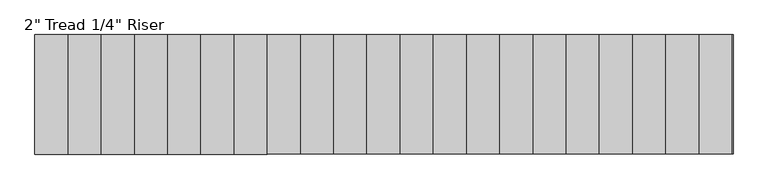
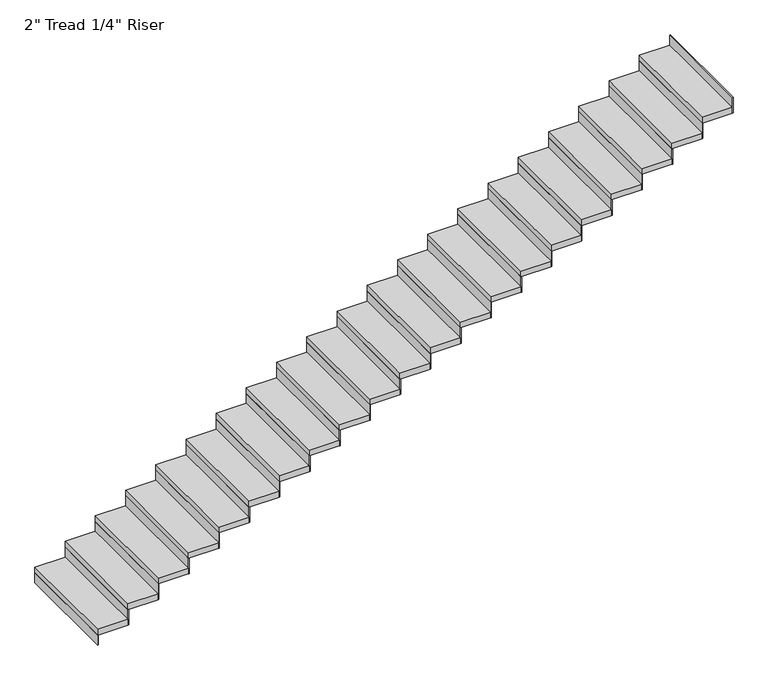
"""IFC4 building model written with IfcOpenShell, lengths in millimetres: stair flight geometry."""

import ifcopenshell
import ifcopenshell.guid

model = None  # the IFC model being written
_history = None  # IfcOwnerHistory: only IFC2X3 demands one
_inside = {}  # id of a spatial element -> (the spatial element, [elements in it])
_under = {}  # id of a project, library or spatial element -> (it, [spatial elements below it])
_declared = {}  # id of a project -> (the project, [libraries it declares])
_typed = {}  # id of a type object -> (the type object, [elements of that type])
_made_of = {}  # id of a material, layer set ... -> (it, [elements and type objects made of it])


def new_model(schema):
    """Start an empty IFC model of exactly this schema.

    Asked for "IFC4X3", IfcOpenShell would pick the latest addendum, in which some entities
    have other attributes; the version numbers below select the first issue.
    IFC2X3 requires an IfcOwnerHistory on every rooted entity: one is made here for all.
    """
    global model, _history
    if schema == "IFC4X3":
        model = ifcopenshell.file(schema_version=(4, 3, 0, 0))
    else:
        model = ifcopenshell.file(schema=schema)
    _inside.clear()
    _under.clear()
    _declared.clear()
    _typed.clear()
    _made_of.clear()
    _history = None
    if model.schema == "IFC2X3":
        org = make("IfcOrganization", Name="unknown")
        user = make(
            "IfcPersonAndOrganization",
            ThePerson=make("IfcPerson", FamilyName="unknown"),
            TheOrganization=org,
        )
        app = make(
            "IfcApplication",
            ApplicationDeveloper=org,
            Version="unknown",
            ApplicationFullName="unknown",
            ApplicationIdentifier="unknown",
        )
        _history = make(
            "IfcOwnerHistory",
            OwningUser=user,
            OwningApplication=app,
            ChangeAction="ADDED",
            CreationDate=0,
        )
    return model


def make(cls, **values):
    """One entity of the class cls with the attributes given. An attribute that is None is left unset."""
    return model.create_entity(
        cls, **{name: value for name, value in values.items() if value is not None}
    )


def rooted(cls, **values):
    """An entity with a GlobalId (a new one), such as an element, a storey or a relation."""
    return make(cls, GlobalId=ifcopenshell.guid.new(), OwnerHistory=_history, **values)


def si_unit(unit_type, name, prefix=None):
    """IfcSIUnit, for example si_unit("LENGTHUNIT", "METRE", prefix="MILLI")."""
    return make("IfcSIUnit", UnitType=unit_type, Prefix=prefix, Name=name)


def assignment(units):
    """IfcUnitAssignment: the units of a project."""
    return None if units is None else make("IfcUnitAssignment", Units=units)


def point(xyz):
    """IfcCartesianPoint."""
    return None if xyz is None else make("IfcCartesianPoint", Coordinates=xyz)


def direction(xyz):
    """IfcDirection."""
    return None if xyz is None else make("IfcDirection", DirectionRatios=xyz)


def frame(location, z_axis=None, x_axis=None):
    """IfcAxis2Placement3D, a coordinate frame: its origin and axes. An axis left out is left unset."""
    return make(
        "IfcAxis2Placement3D",
        Location=point(location),
        Axis=direction(z_axis),
        RefDirection=direction(x_axis),
    )


def origin():
    """The frame at (0, 0, 0) with its axes left unset."""
    return frame((0.0, 0.0, 0.0))


def origin_with_axes():
    """The frame at (0, 0, 0) with the z axis (0, 0, 1) and the x axis (1, 0, 0) written out."""
    return frame((0.0, 0.0, 0.0), z_axis=(0.0, 0.0, 1.0), x_axis=(1.0, 0.0, 0.0))


def place(relative_to, where):
    """IfcLocalPlacement: puts the frame where relative to a parent placement (None: the world)."""
    return make(
        "IfcLocalPlacement", PlacementRelTo=relative_to, RelativePlacement=where
    )


def context(
    kind, dimensions, precision=None, world=None, true_north=None, identifier=None
):
    """IfcGeometricRepresentationContext, for example the 3D "Model" context."""
    return make(
        "IfcGeometricRepresentationContext",
        ContextIdentifier=identifier,
        ContextType=kind,
        CoordinateSpaceDimension=dimensions,
        Precision=precision,
        WorldCoordinateSystem=world,
        TrueNorth=true_north,
    )


def project(units=None, contexts=None):
    """IfcProject with its units and contexts."""
    return rooted(
        "IfcProject",
        Name="project",
        RepresentationContexts=contexts,
        UnitsInContext=assignment(units),
    )


def spatial(cls, under=None, at=None, **own):
    """A site, building, storey or space (cls), placed at a placement, below another one or the project."""
    s = rooted(cls, ObjectPlacement=at, **own)
    if under is not None:
        _under.setdefault(under.id(), (under, []))[1].append(s)
    return s


def polyline(points):
    """IfcPolyline through the points."""
    return make("IfcPolyline", Points=[point(p) for p in points])


def outline(outer, holes=None, kind="AREA"):
    """IfcArbitraryClosedProfileDef: a profile drawn as a closed curve; with holes, ...WithVoids."""
    if holes is None:
        return make("IfcArbitraryClosedProfileDef", ProfileType=kind, OuterCurve=outer)
    return make(
        "IfcArbitraryProfileDefWithVoids",
        ProfileType=kind,
        OuterCurve=outer,
        InnerCurves=holes,
    )


def extrude(swept, where, along, depth):
    """IfcExtrudedAreaSolid: the profile swept, set in the frame where, extruded along a direction by depth."""
    return make(
        "IfcExtrudedAreaSolid",
        SweptArea=swept,
        Position=where,
        ExtrudedDirection=direction(along),
        Depth=depth,
    )


def shape(context_of_items, identifier, shape_type, items):
    """IfcShapeRepresentation: the items that make up one representation, for example the "Body"."""
    return make(
        "IfcShapeRepresentation",
        ContextOfItems=context_of_items,
        RepresentationIdentifier=identifier,
        RepresentationType=shape_type,
        Items=items,
    )


def source(mapping_origin, context_of_items, identifier, shape_type, items):
    """IfcRepresentationMap: a shape defined once, which mapped items show again and again."""
    return make(
        "IfcRepresentationMap",
        MappingOrigin=mapping_origin,
        MappedRepresentation=shape(context_of_items, identifier, shape_type, items),
    )


def transform(
    local_origin,
    x_axis=None,
    y_axis=None,
    z_axis=None,
    scale=None,
    scale2=None,
    scale3=None,
    uniform=True,
):
    """IfcCartesianTransformationOperator3D, or its non-uniform kind. x_axis, y_axis, z_axis: its Axis1, 2, 3."""
    if uniform:
        return make(
            "IfcCartesianTransformationOperator3D",
            Axis1=direction(x_axis),
            Axis2=direction(y_axis),
            LocalOrigin=point(local_origin),
            Scale=scale,
            Axis3=direction(z_axis),
        )
    return make(
        "IfcCartesianTransformationOperator3DnonUniform",
        Axis1=direction(x_axis),
        Axis2=direction(y_axis),
        LocalOrigin=point(local_origin),
        Scale=scale,
        Axis3=direction(z_axis),
        Scale2=scale2,
        Scale3=scale3,
    )


def mapped(mapping_source, mapping_target):
    """IfcMappedItem: shows the shape of a source again, moved by a transform."""
    return make(
        "IfcMappedItem", MappingSource=mapping_source, MappingTarget=mapping_target
    )


def made_of(thing, what):
    """Note that an element or type object is made of a material, layer set ...; save() writes the relation."""
    if what is not None:
        _made_of.setdefault(what.id(), (what, []))[1].append(thing)
    return thing


def element(
    cls,
    number,
    at=None,
    inside=None,
    cuts=None,
    type_object=None,
    material=None,
    context=None,
    identifier="Body",
    shape_type=None,
    held_by="IfcProductDefinitionShape",
    body=None,
    shapes=None,
    **own,
):
    """One element of the class cls, such as IfcWall. Its Tag is "e" and its number.

    at: its placement. inside: the storey or other place that contains it. cuts: it is an
    opening in that element (IfcRelVoidsElement). A single representation is given by context,
    identifier, shape_type and body (its items); several are given by shapes. held_by: the class
    of the entity that holds the representations. save() writes the other relations.
    """
    e = rooted(cls, Tag="e%d" % number, ObjectPlacement=at, **own)
    if body is not None:
        shapes = [shape(context, identifier, shape_type, body)]
    if shapes is not None:
        e.Representation = make(held_by, Representations=shapes)
    if inside is not None:
        _inside.setdefault(inside.id(), (inside, []))[1].append(e)
    if cuts is not None:
        rooted(
            "IfcRelVoidsElement", RelatingBuildingElement=cuts, RelatedOpeningElement=e
        )
    if type_object is not None:
        _typed.setdefault(type_object.id(), (type_object, []))[1].append(e)
    return made_of(e, material)


def aggregate(whole, parts):
    """IfcRelAggregates: a whole, such as a stair, and the parts it consists of."""
    return rooted("IfcRelAggregates", RelatingObject=whole, RelatedObjects=parts)


def save(model, path):
    """Write the relations noted so far, then the file.

    IfcRelAggregates (storeys below a building ...), IfcRelContainedInSpatialStructure (elements
    in a storey), IfcRelDefinesByType, IfcRelAssociatesMaterial and IfcRelDeclares: one each for
    every whole, place, type object, material and project.
    """
    for whole, parts in _under.values():
        aggregate(whole, parts)
    for where, things in _inside.values():
        rooted(
            "IfcRelContainedInSpatialStructure",
            RelatedElements=things,
            RelatingStructure=where,
        )
    for kind, things in _typed.values():
        rooted("IfcRelDefinesByType", RelatedObjects=things, RelatingType=kind)
    for what, things in _made_of.values():
        rooted("IfcRelAssociatesMaterial", RelatedObjects=things, RelatingMaterial=what)
    for by, libraries in _declared.values():
        rooted("IfcRelDeclares", RelatingContext=by, RelatedDefinitions=libraries)
    model.write(path)


def stair_flight_4c7bdb1a(model_context):
    return source(origin(), model_context, "Body", "SweptSolid", [
        extrude(outline(polyline([(37777.7791841, 34137.0052558), (37771.4291841, 34137.0052558), (37771.4291841, 35051.4052558), (37777.7791841, 35051.4052558), (37777.7791841, 34137.0052558)])), origin_with_axes(), (0.0, 0.0, 1.0), 87.7454545),
        extrude(outline(polyline([(38025.4291841, 35051.4052558), (38025.4291841, 34137.0052558), (37771.4291841, 34137.0052558), (37771.4291841, 35051.4052558), (38025.4291841, 35051.4052558)])), frame((0.0, 0.0, 87.7454545), z_axis=(0.0, 0.0, 1.0), x_axis=(1.0, 0.0, 0.0)), (0.0, 0.0, 1.0), 50.8),
        extrude(outline(polyline([(38031.7791841, 34137.0052558), (38025.4291841, 34137.0052558), (38025.4291841, 35051.4052558), (38031.7791841, 35051.4052558), (38031.7791841, 34137.0052558)])), frame((0.0, 0.0, 87.7454545), z_axis=(0.0, 0.0, 1.0), x_axis=(1.0, 0.0, 0.0)), (0.0, 0.0, 1.0), 138.5454545),
        extrude(outline(polyline([(38279.4291841, 35051.4052558), (38279.4291841, 34137.0052558), (38025.4291841, 34137.0052558), (38025.4291841, 35051.4052558), (38279.4291841, 35051.4052558)])), frame((0.0, 0.0, 226.2909091), z_axis=(0.0, 0.0, 1.0), x_axis=(1.0, 0.0, 0.0)), (0.0, 0.0, 1.0), 50.8),
        extrude(outline(polyline([(38285.7791841, 34137.0052558), (38279.4291841, 34137.0052558), (38279.4291841, 35051.4052558), (38285.7791841, 35051.4052558), (38285.7791841, 34137.0052558)])), frame((0.0, 0.0, 226.2909091), z_axis=(0.0, 0.0, 1.0), x_axis=(1.0, 0.0, 0.0)), (0.0, 0.0, 1.0), 138.5454545),
        extrude(outline(polyline([(38533.4291841, 35051.4052558), (38533.4291841, 34137.0052558), (38279.4291841, 34137.0052558), (38279.4291841, 35051.4052558), (38533.4291841, 35051.4052558)])), frame((0.0, 0.0, 364.8363636), z_axis=(0.0, 0.0, 1.0), x_axis=(1.0, 0.0, 0.0)), (0.0, 0.0, 1.0), 50.8),
        extrude(outline(polyline([(38539.7791841, 34137.0052558), (38533.4291841, 34137.0052558), (38533.4291841, 35051.4052558), (38539.7791841, 35051.4052558), (38539.7791841, 34137.0052558)])), frame((0.0, 0.0, 364.8363636), z_axis=(0.0, 0.0, 1.0), x_axis=(1.0, 0.0, 0.0)), (0.0, 0.0, 1.0), 138.5454545),
        extrude(outline(polyline([(38787.4291841, 35051.4052558), (38787.4291841, 34137.0052558), (38533.4291841, 34137.0052558), (38533.4291841, 35051.4052558), (38787.4291841, 35051.4052558)])), frame((0.0, 0.0, 503.3818182), z_axis=(0.0, 0.0, 1.0), x_axis=(1.0, 0.0, 0.0)), (0.0, 0.0, 1.0), 50.8),
        extrude(outline(polyline([(38793.7791841, 34137.0052558), (38787.4291841, 34137.0052558), (38787.4291841, 35051.4052558), (38793.7791841, 35051.4052558), (38793.7791841, 34137.0052558)])), frame((0.0, 0.0, 503.3818182), z_axis=(0.0, 0.0, 1.0), x_axis=(1.0, 0.0, 0.0)), (0.0, 0.0, 1.0), 138.5454545),
        extrude(outline(polyline([(39041.4291841, 35051.4052558), (39041.4291841, 34137.0052558), (38787.4291841, 34137.0052558), (38787.4291841, 35051.4052558), (39041.4291841, 35051.4052558)])), frame((0.0, 0.0, 641.9272727), z_axis=(0.0, 0.0, 1.0), x_axis=(1.0, 0.0, 0.0)), (0.0, 0.0, 1.0), 50.8),
        extrude(outline(polyline([(39047.7791841, 34137.0052558), (39041.4291841, 34137.0052558), (39041.4291841, 35051.4052558), (39047.7791841, 35051.4052558), (39047.7791841, 34137.0052558)])), frame((0.0, 0.0, 641.9272727), z_axis=(0.0, 0.0, 1.0), x_axis=(1.0, 0.0, 0.0)), (0.0, 0.0, 1.0), 138.5454545),
        extrude(outline(polyline([(39295.4291841, 35051.4052558), (39295.4291841, 34137.0052558), (39041.4291841, 34137.0052558), (39041.4291841, 35051.4052558), (39295.4291841, 35051.4052558)])), frame((0.0, 0.0, 780.4727273), z_axis=(0.0, 0.0, 1.0), x_axis=(1.0, 0.0, 0.0)), (0.0, 0.0, 1.0), 50.8),
        extrude(outline(polyline([(39301.7791841, 34137.0052558), (39295.4291841, 34137.0052558), (39295.4291841, 35051.4052558), (39301.7791841, 35051.4052558), (39301.7791841, 34137.0052558)])), frame((0.0, 0.0, 780.4727273), z_axis=(0.0, 0.0, 1.0), x_axis=(1.0, 0.0, 0.0)), (0.0, 0.0, 1.0), 138.5454545),
        extrude(outline(polyline([(39549.4291841, 35051.4052558), (39549.4291841, 34137.0052558), (39295.4291841, 34137.0052558), (39295.4291841, 35051.4052558), (39549.4291841, 35051.4052558)])), frame((0.0, 0.0, 919.0181818), z_axis=(0.0, 0.0, 1.0), x_axis=(1.0, 0.0, 0.0)), (0.0, 0.0, 1.0), 50.8),
        extrude(outline(polyline([(39555.7791841, 34137.0052558), (39549.4291841, 34137.0052558), (39549.4291841, 35051.4052558), (39555.7791841, 35051.4052558), (39555.7791841, 34137.0052558)])), frame((0.0, 0.0, 919.0181818), z_axis=(0.0, 0.0, 1.0), x_axis=(1.0, 0.0, 0.0)), (0.0, 0.0, 1.0), 138.5454545),
        extrude(outline(polyline([(39803.4291841, 35051.4052558), (39803.4291841, 34137.0052558), (39549.4291841, 34137.0052558), (39549.4291841, 35051.4052558), (39803.4291841, 35051.4052558)])), frame((0.0, 0.0, 1057.5636364), z_axis=(0.0, 0.0, 1.0), x_axis=(1.0, 0.0, 0.0)), (0.0, 0.0, 1.0), 50.8),
        extrude(outline(polyline([(39809.7791841, 34137.0052558), (39803.4291841, 34137.0052558), (39803.4291841, 35051.4052558), (39809.7791841, 35051.4052558), (39809.7791841, 34137.0052558)])), frame((0.0, 0.0, 1057.5636364), z_axis=(0.0, 0.0, 1.0), x_axis=(1.0, 0.0, 0.0)), (0.0, 0.0, 1.0), 138.5454545),
        extrude(outline(polyline([(40057.4291841, 35051.4052558), (40057.4291841, 34137.0052558), (39803.4291841, 34137.0052558), (39803.4291841, 35051.4052558), (40057.4291841, 35051.4052558)])), frame((0.0, 0.0, 1196.1090909), z_axis=(0.0, 0.0, 1.0), x_axis=(1.0, 0.0, 0.0)), (0.0, 0.0, 1.0), 50.8),
        extrude(outline(polyline([(40063.7791841, 34137.0052558), (40057.4291841, 34137.0052558), (40057.4291841, 35051.4052558), (40063.7791841, 35051.4052558), (40063.7791841, 34137.0052558)])), frame((0.0, 0.0, 1196.1090909), z_axis=(0.0, 0.0, 1.0), x_axis=(1.0, 0.0, 0.0)), (0.0, 0.0, 1.0), 138.5454545),
        extrude(outline(polyline([(40311.4291841, 35051.4052558), (40311.4291841, 34137.0052558), (40057.4291841, 34137.0052558), (40057.4291841, 35051.4052558), (40311.4291841, 35051.4052558)])), frame((0.0, 0.0, 1334.6545455), z_axis=(0.0, 0.0, 1.0), x_axis=(1.0, 0.0, 0.0)), (0.0, 0.0, 1.0), 50.8),
        extrude(outline(polyline([(40317.7791841, 34137.0052558), (40311.4291841, 34137.0052558), (40311.4291841, 35051.4052558), (40317.7791841, 35051.4052558), (40317.7791841, 34137.0052558)])), frame((0.0, 0.0, 1334.6545455), z_axis=(0.0, 0.0, 1.0), x_axis=(1.0, 0.0, 0.0)), (0.0, 0.0, 1.0), 138.5454545),
        extrude(outline(polyline([(40565.4291841, 35051.4052558), (40565.4291841, 34137.0052558), (40311.4291841, 34137.0052558), (40311.4291841, 35051.4052558), (40565.4291841, 35051.4052558)])), frame((0.0, 0.0, 1473.2), z_axis=(0.0, 0.0, 1.0), x_axis=(1.0, 0.0, 0.0)), (0.0, 0.0, 1.0), 50.8),
        extrude(outline(polyline([(40571.7791841, 34137.0052558), (40565.4291841, 34137.0052558), (40565.4291841, 35051.4052558), (40571.7791841, 35051.4052558), (40571.7791841, 34137.0052558)])), frame((0.0, 0.0, 1473.2), z_axis=(0.0, 0.0, 1.0), x_axis=(1.0, 0.0, 0.0)), (0.0, 0.0, 1.0), 138.5454545),
        extrude(outline(polyline([(40819.4291841, 35051.4052558), (40819.4291841, 34137.0052558), (40565.4291841, 34137.0052558), (40565.4291841, 35051.4052558), (40819.4291841, 35051.4052558)])), frame((0.0, 0.0, 1611.7454545), z_axis=(0.0, 0.0, 1.0), x_axis=(1.0, 0.0, 0.0)), (0.0, 0.0, 1.0), 50.8),
        extrude(outline(polyline([(40825.7791841, 34137.0052558), (40819.4291841, 34137.0052558), (40819.4291841, 35051.4052558), (40825.7791841, 35051.4052558), (40825.7791841, 34137.0052558)])), frame((0.0, 0.0, 1611.7454545), z_axis=(0.0, 0.0, 1.0), x_axis=(1.0, 0.0, 0.0)), (0.0, 0.0, 1.0), 138.5454545),
        extrude(outline(polyline([(41073.4291841, 35051.4052558), (41073.4291841, 34137.0052558), (40819.4291841, 34137.0052558), (40819.4291841, 35051.4052558), (41073.4291841, 35051.4052558)])), frame((0.0, 0.0, 1750.2909091), z_axis=(0.0, 0.0, 1.0), x_axis=(1.0, 0.0, 0.0)), (0.0, 0.0, 1.0), 50.8),
        extrude(outline(polyline([(41079.7791841, 34137.0052558), (41073.4291841, 34137.0052558), (41073.4291841, 35051.4052558), (41079.7791841, 35051.4052558), (41079.7791841, 34137.0052558)])), frame((0.0, 0.0, 1750.2909091), z_axis=(0.0, 0.0, 1.0), x_axis=(1.0, 0.0, 0.0)), (0.0, 0.0, 1.0), 138.5454545),
        extrude(outline(polyline([(41327.4291841, 35051.4052558), (41327.4291841, 34137.0052558), (41073.4291841, 34137.0052558), (41073.4291841, 35051.4052558), (41327.4291841, 35051.4052558)])), frame((0.0, 0.0, 1888.8363636), z_axis=(0.0, 0.0, 1.0), x_axis=(1.0, 0.0, 0.0)), (0.0, 0.0, 1.0), 50.8),
        extrude(outline(polyline([(41333.7791841, 34137.0052558), (41327.4291841, 34137.0052558), (41327.4291841, 35051.4052558), (41333.7791841, 35051.4052558), (41333.7791841, 34137.0052558)])), frame((0.0, 0.0, 1888.8363636), z_axis=(0.0, 0.0, 1.0), x_axis=(1.0, 0.0, 0.0)), (0.0, 0.0, 1.0), 138.5454545),
        extrude(outline(polyline([(41581.4291841, 35051.4052558), (41581.4291841, 34137.0052558), (41327.4291841, 34137.0052558), (41327.4291841, 35051.4052558), (41581.4291841, 35051.4052558)])), frame((0.0, 0.0, 2027.3818182), z_axis=(0.0, 0.0, 1.0), x_axis=(1.0, 0.0, 0.0)), (0.0, 0.0, 1.0), 50.8),
        extrude(outline(polyline([(41587.7791841, 34137.0052558), (41581.4291841, 34137.0052558), (41581.4291841, 35051.4052558), (41587.7791841, 35051.4052558), (41587.7791841, 34137.0052558)])), frame((0.0, 0.0, 2027.3818182), z_axis=(0.0, 0.0, 1.0), x_axis=(1.0, 0.0, 0.0)), (0.0, 0.0, 1.0), 138.5454545),
        extrude(outline(polyline([(41835.4291841, 35051.4052558), (41835.4291841, 34137.0052558), (41581.4291841, 34137.0052558), (41581.4291841, 35051.4052558), (41835.4291841, 35051.4052558)])), frame((0.0, 0.0, 2165.9272727), z_axis=(0.0, 0.0, 1.0), x_axis=(1.0, 0.0, 0.0)), (0.0, 0.0, 1.0), 50.8),
        extrude(outline(polyline([(41841.7791841, 34137.0052558), (41835.4291841, 34137.0052558), (41835.4291841, 35051.4052558), (41841.7791841, 35051.4052558), (41841.7791841, 34137.0052558)])), frame((0.0, 0.0, 2165.9272727), z_axis=(0.0, 0.0, 1.0), x_axis=(1.0, 0.0, 0.0)), (0.0, 0.0, 1.0), 138.5454545),
        extrude(outline(polyline([(42089.4291841, 35051.4052558), (42089.4291841, 34137.0052558), (41835.4291841, 34137.0052558), (41835.4291841, 35051.4052558), (42089.4291841, 35051.4052558)])), frame((0.0, 0.0, 2304.4727273), z_axis=(0.0, 0.0, 1.0), x_axis=(1.0, 0.0, 0.0)), (0.0, 0.0, 1.0), 50.8),
        extrude(outline(polyline([(42095.7791841, 34137.0052558), (42089.4291841, 34137.0052558), (42089.4291841, 35051.4052558), (42095.7791841, 35051.4052558), (42095.7791841, 34137.0052558)])), frame((0.0, 0.0, 2304.4727273), z_axis=(0.0, 0.0, 1.0), x_axis=(1.0, 0.0, 0.0)), (0.0, 0.0, 1.0), 138.5454545),
        extrude(outline(polyline([(42343.4291841, 35051.4052558), (42343.4291841, 34137.0052558), (42089.4291841, 34137.0052558), (42089.4291841, 35051.4052558), (42343.4291841, 35051.4052558)])), frame((0.0, 0.0, 2443.0181818), z_axis=(0.0, 0.0, 1.0), x_axis=(1.0, 0.0, 0.0)), (0.0, 0.0, 1.0), 50.8),
        extrude(outline(polyline([(42349.7791841, 34137.0052558), (42343.4291841, 34137.0052558), (42343.4291841, 35051.4052558), (42349.7791841, 35051.4052558), (42349.7791841, 34137.0052558)])), frame((0.0, 0.0, 2443.0181818), z_axis=(0.0, 0.0, 1.0), x_axis=(1.0, 0.0, 0.0)), (0.0, 0.0, 1.0), 138.5454545),
        extrude(outline(polyline([(42597.4291841, 35051.4052558), (42597.4291841, 34137.0052558), (42343.4291841, 34137.0052558), (42343.4291841, 35051.4052558), (42597.4291841, 35051.4052558)])), frame((0.0, 0.0, 2581.5636364), z_axis=(0.0, 0.0, 1.0), x_axis=(1.0, 0.0, 0.0)), (0.0, 0.0, 1.0), 50.8),
        extrude(outline(polyline([(42603.7791841, 34137.0052558), (42597.4291841, 34137.0052558), (42597.4291841, 35051.4052558), (42603.7791841, 35051.4052558), (42603.7791841, 34137.0052558)])), frame((0.0, 0.0, 2581.5636364), z_axis=(0.0, 0.0, 1.0), x_axis=(1.0, 0.0, 0.0)), (0.0, 0.0, 1.0), 138.5454545),
        extrude(outline(polyline([(42851.4291841, 35051.4052558), (42851.4291841, 34137.0052558), (42597.4291841, 34137.0052558), (42597.4291841, 35051.4052558), (42851.4291841, 35051.4052558)])), frame((0.0, 0.0, 2720.1090909), z_axis=(0.0, 0.0, 1.0), x_axis=(1.0, 0.0, 0.0)), (0.0, 0.0, 1.0), 50.8),
        extrude(outline(polyline([(42857.7791841, 34137.0052558), (42851.4291841, 34137.0052558), (42851.4291841, 35051.4052558), (42857.7791841, 35051.4052558), (42857.7791841, 34137.0052558)])), frame((0.0, 0.0, 2720.1090909), z_axis=(0.0, 0.0, 1.0), x_axis=(1.0, 0.0, 0.0)), (0.0, 0.0, 1.0), 138.5454545),
        extrude(outline(polyline([(43111.7791841, 34137.0052558), (43105.4291841, 34137.0052558), (43105.4291841, 35051.4052558), (43111.7791841, 35051.4052558), (43111.7791841, 34137.0052558)])), frame((0.0, 0.0, 2858.6545455), z_axis=(0.0, 0.0, 1.0), x_axis=(1.0, 0.0, 0.0)), (0.0, 0.0, 1.0), 138.5454545),
        extrude(outline(polyline([(43105.4291841, 35051.4052558), (43105.4291841, 34137.0052558), (42851.4291841, 34137.0052558), (42851.4291841, 35051.4052558), (43105.4291841, 35051.4052558)])), frame((0.0, 0.0, 2858.6545455), z_axis=(0.0, 0.0, 1.0), x_axis=(1.0, 0.0, 0.0)), (0.0, 0.0, 1.0), 50.8),
    ])


if __name__ == "__main__":
    model = new_model("IFC4")
    model_context = context("Model", 3, world=origin())
    ifc_project = project(units=[si_unit("LENGTHUNIT", "METRE", prefix="MILLI")], contexts=[model_context])
    site = spatial("IfcSite", under=ifc_project)
    building = spatial("IfcBuilding", under=site)
    placement = place(None, origin())
    stair_flight_shape = stair_flight_4c7bdb1a(model_context)
    element("IfcStairFlight", 1, ObjectType="2\" Tread 1/4\" Riser", at=placement, inside=building, context=model_context, shape_type="MappedRepresentation", body=[
        mapped(stair_flight_shape, transform((0.0, 0.0, 0.0), x_axis=(1.0, 0.0, 0.0), y_axis=(0.0, 1.0, 0.0), z_axis=(0.0, 0.0, 1.0))),
    ])
    save(model, "model.ifc")
